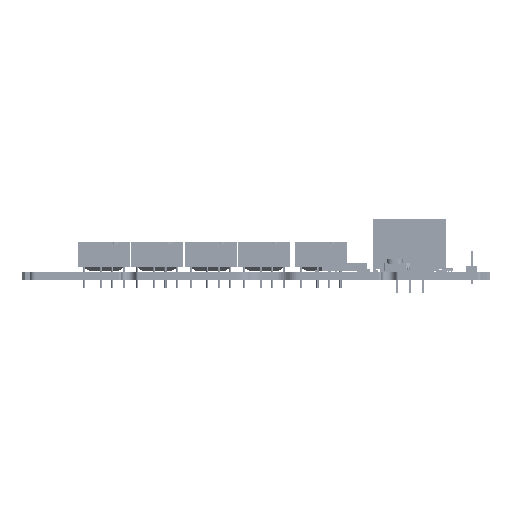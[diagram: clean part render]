
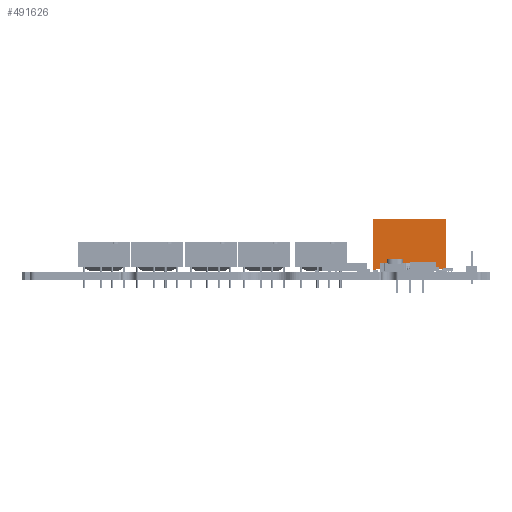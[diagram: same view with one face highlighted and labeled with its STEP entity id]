
A CAD part, front view. The second image highlights one B-rep face of the part: STEP entity #491626.
In plain terms, the highlighted planar face has unit normal (0, -1, 0).
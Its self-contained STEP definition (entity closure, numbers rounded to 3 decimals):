
#491551 = VERTEX_POINT('',#491552);
#491552 = CARTESIAN_POINT('',(80.56,58.09,
    0.));
#491569 = VERTEX_POINT('',#491570);
#491570 = CARTESIAN_POINT('',(81.06,58.09,
    0.));
#491576 = EDGE_CURVE('',#491551,#491569,#491577,.T.);
#491577 = LINE('',#491578,#491579);
#491578 = CARTESIAN_POINT('',(81.06,58.09,
    0.));
#491579 = VECTOR('',#491580,1.);
#491580 = DIRECTION('',(1.,0.,0.));
#491593 = VERTEX_POINT('',#491594);
#491594 = CARTESIAN_POINT('',(67.06,58.09,
    0.));
#491600 = EDGE_CURVE('',#491601,#491593,#491603,.T.);
#491601 = VERTEX_POINT('',#491602);
#491602 = CARTESIAN_POINT('',(67.06,58.09,
    10.1));
#491603 = LINE('',#491604,#491605);
#491604 = CARTESIAN_POINT('',(67.06,58.09,
    10.1));
#491605 = VECTOR('',#491606,1.);
#491606 = DIRECTION('',(0.,0.,-1.));
#491626 = ADVANCED_FACE('',(#491627),#491675,.F.);
#491627 = FACE_BOUND('',#491628,.T.);
#491628 = EDGE_LOOP('',(#491629,#491639,#491645,#491646,#491654,#491660,
    #491661,#491669));
#491629 = ORIENTED_EDGE('',*,*,#491630,.T.);
#491630 = EDGE_CURVE('',#491631,#491633,#491635,.T.);
#491631 = VERTEX_POINT('',#491632);
#491632 = CARTESIAN_POINT('',(67.56,58.09,
    0.5));
#491633 = VERTEX_POINT('',#491634);
#491634 = CARTESIAN_POINT('',(80.56,58.09,
    0.5));
#491635 = LINE('',#491636,#491637);
#491636 = CARTESIAN_POINT('',(80.56,58.09,
    0.5));
#491637 = VECTOR('',#491638,1.);
#491638 = DIRECTION('',(1.,0.,0.));
#491639 = ORIENTED_EDGE('',*,*,#491640,.T.);
#491640 = EDGE_CURVE('',#491633,#491551,#491641,.T.);
#491641 = LINE('',#491642,#491643);
#491642 = CARTESIAN_POINT('',(80.56,58.09,
    0.));
#491643 = VECTOR('',#491644,1.);
#491644 = DIRECTION('',(0.,0.,-1.));
#491645 = ORIENTED_EDGE('',*,*,#491576,.T.);
#491646 = ORIENTED_EDGE('',*,*,#491647,.F.);
#491647 = EDGE_CURVE('',#491648,#491569,#491650,.T.);
#491648 = VERTEX_POINT('',#491649);
#491649 = CARTESIAN_POINT('',(81.06,58.09,
    10.1));
#491650 = LINE('',#491651,#491652);
#491651 = CARTESIAN_POINT('',(81.06,58.09,
    10.1));
#491652 = VECTOR('',#491653,1.);
#491653 = DIRECTION('',(0.,0.,-1.));
#491654 = ORIENTED_EDGE('',*,*,#491655,.F.);
#491655 = EDGE_CURVE('',#491601,#491648,#491656,.T.);
#491656 = LINE('',#491657,#491658);
#491657 = CARTESIAN_POINT('',(81.06,58.09,
    10.1));
#491658 = VECTOR('',#491659,1.);
#491659 = DIRECTION('',(1.,0.,0.));
#491660 = ORIENTED_EDGE('',*,*,#491600,.T.);
#491661 = ORIENTED_EDGE('',*,*,#491662,.T.);
#491662 = EDGE_CURVE('',#491593,#491663,#491665,.T.);
#491663 = VERTEX_POINT('',#491664);
#491664 = CARTESIAN_POINT('',(67.56,58.09,
    0.));
#491665 = LINE('',#491666,#491667);
#491666 = CARTESIAN_POINT('',(81.06,58.09,
    0.));
#491667 = VECTOR('',#491668,1.);
#491668 = DIRECTION('',(1.,0.,0.));
#491669 = ORIENTED_EDGE('',*,*,#491670,.T.);
#491670 = EDGE_CURVE('',#491663,#491631,#491671,.T.);
#491671 = LINE('',#491672,#491673);
#491672 = CARTESIAN_POINT('',(67.56,58.09,
    0.));
#491673 = VECTOR('',#491674,1.);
#491674 = DIRECTION('',(0.,0.,1.));
#491675 = PLANE('',#491676);
#491676 = AXIS2_PLACEMENT_3D('',#491677,#491678,#491679);
#491677 = CARTESIAN_POINT('',(81.06,58.09,
    10.1));
#491678 = DIRECTION('',(0.,1.,0.));
#491679 = DIRECTION('',(-1.,0.,0.));
